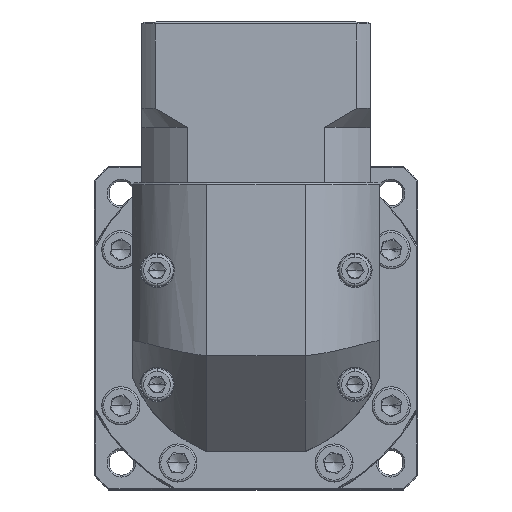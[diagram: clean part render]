
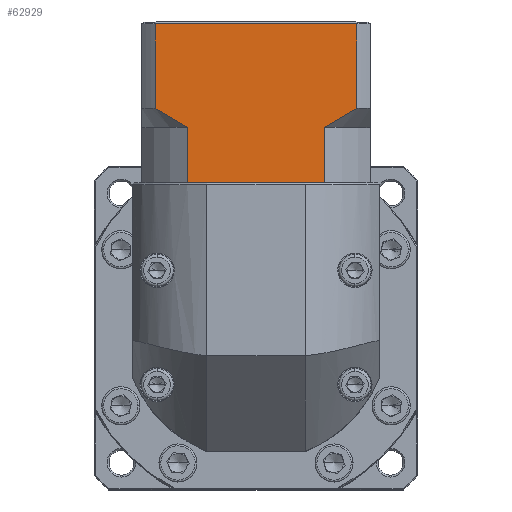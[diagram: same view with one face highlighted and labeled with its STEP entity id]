
A CAD part, top view. The second image highlights one B-rep face of the part: STEP entity #62929.
In plain terms, the highlighted planar face has unit normal (0, 0, 1).
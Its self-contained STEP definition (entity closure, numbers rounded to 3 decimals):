
#90 = CARTESIAN_POINT ( 'NONE',  ( -99.414, 64.098, 55.04 ) ) ;
#158 = CARTESIAN_POINT ( 'NONE',  ( -111.386, 64.098, 55.04 ) ) ;
#2175 = B_SPLINE_CURVE_WITH_KNOTS ( 'NONE', 3,
 ( #128618, #127102, #23217, #68970, #139308, #103599 ),
 .UNSPECIFIED., .F., .F.,
 ( 4, 2, 4 ),
 ( 0.052, 0.057, 0.062 ),
 .UNSPECIFIED. ) ;
#2265 = VERTEX_POINT ( 'NONE', #98237 ) ;
#5437 = CARTESIAN_POINT ( 'NONE',  ( -98.423, 64.098, 55.04 ) ) ;
#13671 = VECTOR ( 'NONE', #93181, 1000. ) ;
#14016 = CARTESIAN_POINT ( 'NONE',  ( -54.928, 78.598, 55.04 ) ) ;
#17795 = VERTEX_POINT ( 'NONE', #32684 ) ;
#17808 = CARTESIAN_POINT ( 'NONE',  ( -111.386, 64.098, 55.04 ) ) ;
#22396 = VECTOR ( 'NONE', #33141, 1000. ) ;
#22928 = VECTOR ( 'NONE', #146040, 1000. ) ;
#23060 = LINE ( 'NONE', #32826, #79523 ) ;
#23217 = CARTESIAN_POINT ( 'NONE',  ( -105.105, 81.826, 55.04 ) ) ;
#26915 = LINE ( 'NONE', #117545, #147178 ) ;
#32426 = ORIENTED_EDGE ( 'NONE', *, *, #61424, .T. ) ;
#32571 = VERTEX_POINT ( 'NONE', #90 ) ;
#32684 = CARTESIAN_POINT ( 'NONE',  ( -54.928, 83.598, 55.04 ) ) ;
#32826 = CARTESIAN_POINT ( 'NONE',  ( -111.386, 64.098, 55.04 ) ) ;
#32854 = VERTEX_POINT ( 'NONE', #117581 ) ;
#33141 = DIRECTION ( 'NONE',  ( 0., -1., 0. ) ) ;
#36751 = CARTESIAN_POINT ( 'NONE',  ( -61.902, 79.349, 55.04 ) ) ;
#37816 = VERTEX_POINT ( 'NONE', #5437 ) ;
#41072 = LINE ( 'NONE', #124569, #22928 ) ;
#42817 = DIRECTION ( 'NONE',  ( 0., 1., 0. ) ) ;
#43426 = DIRECTION ( 'NONE',  ( 0., 1., 0. ) ) ;
#43849 = DIRECTION ( 'NONE',  ( 0., 0., -1. ) ) ;
#45178 = EDGE_CURVE ( 'NONE', #137543, #32854, #71489, .T. ) ;
#45456 = VECTOR ( 'NONE', #43426, 1000. ) ;
#45985 = LINE ( 'NONE', #55512, #22396 ) ;
#46345 = CARTESIAN_POINT ( 'NONE',  ( -64.349, 64.098, 55.04 ) ) ;
#46957 = EDGE_CURVE ( 'NONE', #2265, #144960, #41072, .T. ) ;
#47092 = AXIS2_PLACEMENT_3D ( 'NONE', #125886, #43849, #42817 ) ;
#50737 = CARTESIAN_POINT ( 'NONE',  ( -63.358, 78.598, 55.04 ) ) ;
#51629 = VECTOR ( 'NONE', #118820, 1000. ) ;
#55512 = CARTESIAN_POINT ( 'NONE',  ( -63.358, 78.598, 55.04 ) ) ;
#59635 = EDGE_CURVE ( 'NONE', #65161, #17795, #134159, .T. ) ;
#59999 = DIRECTION ( 'NONE',  ( -1., 0., 0. ) ) ;
#60018 = ORIENTED_EDGE ( 'NONE', *, *, #143154, .T. ) ;
#61424 = EDGE_CURVE ( 'NONE', #94419, #144960, #26915, .T. ) ;
#62929 = ADVANCED_FACE ( 'NONE', ( #70087 ), #113590, .F. ) ;
#65161 = VERTEX_POINT ( 'NONE', #50737 ) ;
#68239 = LINE ( 'NONE', #158, #13671 ) ;
#68970 = CARTESIAN_POINT ( 'NONE',  ( -102.297, 80.15, 55.04 ) ) ;
#70087 = FACE_OUTER_BOUND ( 'NONE', #108281, .T. ) ;
#71489 = LINE ( 'NONE', #17808, #98820 ) ;
#71821 = CARTESIAN_POINT ( 'NONE',  ( -63.358, 78.598, 55.04 ) ) ;
#72209 = CARTESIAN_POINT ( 'NONE',  ( -54.928, 105.798, 55.04 ) ) ;
#72948 = ORIENTED_EDGE ( 'NONE', *, *, #131404, .F. ) ;
#79523 = VECTOR ( 'NONE', #124504, 1000. ) ;
#80648 = LINE ( 'NONE', #14016, #51629 ) ;
#82165 = EDGE_CURVE ( 'NONE', #37816, #137543, #68239, .T. ) ;
#85060 = CARTESIAN_POINT ( 'NONE',  ( -57.671, 81.823, 55.04 ) ) ;
#85657 = LINE ( 'NONE', #90721, #45456 ) ;
#85707 = ORIENTED_EDGE ( 'NONE', *, *, #97500, .F. ) ;
#90721 = CARTESIAN_POINT ( 'NONE',  ( -99.414, 78.598, 55.04 ) ) ;
#91492 = CARTESIAN_POINT ( 'NONE',  ( -107.843, 105.798, 55.04 ) ) ;
#93181 = DIRECTION ( 'NONE',  ( 1., 0., 0. ) ) ;
#93473 = ORIENTED_EDGE ( 'NONE', *, *, #46957, .F. ) ;
#94419 = VERTEX_POINT ( 'NONE', #72209 ) ;
#95241 = CARTESIAN_POINT ( 'NONE',  ( -60.476, 80.149, 55.04 ) ) ;
#97500 = EDGE_CURVE ( 'NONE', #32571, #139875, #85657, .T. ) ;
#98055 = ORIENTED_EDGE ( 'NONE', *, *, #45178, .T. ) ;
#98237 = CARTESIAN_POINT ( 'NONE',  ( -107.843, 83.598, 55.04 ) ) ;
#98820 = VECTOR ( 'NONE', #145624, 1000. ) ;
#103599 = CARTESIAN_POINT ( 'NONE',  ( -99.414, 78.598, 55.04 ) ) ;
#107500 = CARTESIAN_POINT ( 'NONE',  ( -56.291, 82.697, 55.04 ) ) ;
#108281 = EDGE_LOOP ( 'NONE', ( #72948, #32426, #93473, #60018, #85707, #109104, #111957, #98055, #136445, #113707 ) ) ;
#109104 = ORIENTED_EDGE ( 'NONE', *, *, #120578, .T. ) ;
#111957 = ORIENTED_EDGE ( 'NONE', *, *, #82165, .T. ) ;
#113590 = PLANE ( 'NONE',  #47092 ) ;
#113707 = ORIENTED_EDGE ( 'NONE', *, *, #59635, .T. ) ;
#117545 = CARTESIAN_POINT ( 'NONE',  ( -111.386, 105.798, 55.04 ) ) ;
#117581 = CARTESIAN_POINT ( 'NONE',  ( -63.358, 64.098, 55.04 ) ) ;
#118820 = DIRECTION ( 'NONE',  ( 0., -1., 0. ) ) ;
#119695 = CARTESIAN_POINT ( 'NONE',  ( -54.928, 83.598, 55.04 ) ) ;
#120578 = EDGE_CURVE ( 'NONE', #32571, #37816, #23060, .T. ) ;
#124504 = DIRECTION ( 'NONE',  ( 1., 0., 0. ) ) ;
#124569 = CARTESIAN_POINT ( 'NONE',  ( -107.843, 78.598, 55.04 ) ) ;
#125886 = CARTESIAN_POINT ( 'NONE',  ( -111.386, 106.298, 55.04 ) ) ;
#127102 = CARTESIAN_POINT ( 'NONE',  ( -106.483, 82.699, 55.04 ) ) ;
#128618 = CARTESIAN_POINT ( 'NONE',  ( -107.843, 83.598, 55.04 ) ) ;
#131404 = EDGE_CURVE ( 'NONE', #94419, #17795, #80648, .T. ) ;
#132106 = CARTESIAN_POINT ( 'NONE',  ( -99.414, 78.598, 55.04 ) ) ;
#134159 = B_SPLINE_CURVE_WITH_KNOTS ( 'NONE', 3,
 ( #71821, #36751, #95241, #85060, #107500, #119695 ),
 .UNSPECIFIED., .F., .F.,
 ( 4, 2, 4 ),
 ( 0.1, 0.104, 0.109 ),
 .UNSPECIFIED. ) ;
#135357 = EDGE_CURVE ( 'NONE', #65161, #32854, #45985, .T. ) ;
#136445 = ORIENTED_EDGE ( 'NONE', *, *, #135357, .F. ) ;
#137543 = VERTEX_POINT ( 'NONE', #46345 ) ;
#139308 = CARTESIAN_POINT ( 'NONE',  ( -100.866, 79.346, 55.04 ) ) ;
#139875 = VERTEX_POINT ( 'NONE', #132106 ) ;
#143154 = EDGE_CURVE ( 'NONE', #2265, #139875, #2175, .T. ) ;
#144960 = VERTEX_POINT ( 'NONE', #91492 ) ;
#145624 = DIRECTION ( 'NONE',  ( 1., 0., 0. ) ) ;
#146040 = DIRECTION ( 'NONE',  ( 0., 1., 0. ) ) ;
#147178 = VECTOR ( 'NONE', #59999, 1000. ) ;
